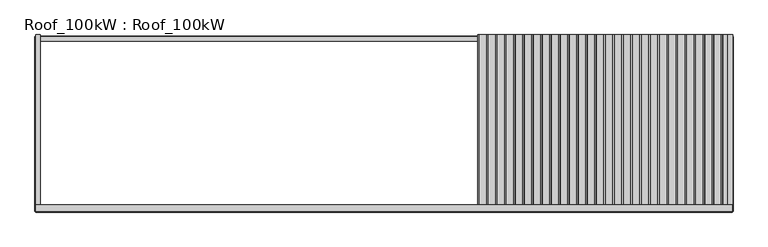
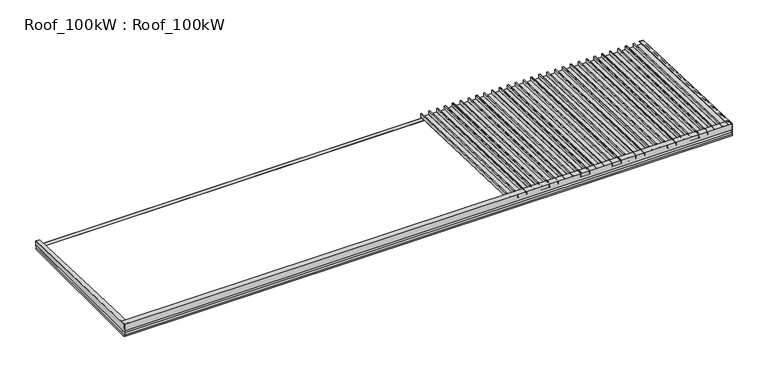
"""IFC4 building model written with IfcOpenShell, lengths in millimetres: beam geometry, Roof_100kW : Roof_100kW."""

from ifc_helpers import new_model, si_unit, frame, origin, place, context, project, spatial, polyline, outline, extrude, faceted_brep, source, transform, mapped, element, save


def roof_100kw_roof_100kw_a95ad8ea(model_context):
    return source(origin(), model_context, "Body", "SolidModel", [
        extrude(outline(polyline([(3464.5525967, 3397.5851728), (3464.5525967, 3395.3087926), (-14.9618868, 3516.8161158), (-14.9618868, 3517.79167), (3464.5525967, 3397.5851728)])), frame((-6859.75, 0.0, 0.0), z_axis=(1.0, 0.0, 0.0), x_axis=(0.0, 1.0, 0.0)), (0.0, 0.0, 1.0), 91.0),
        extrude(outline(polyline([(3464.5525967, 3397.5851728), (3464.5525967, 3395.3087926), (-14.9618868, 3516.8161158), (-14.9618868, 3517.79167), (3464.5525967, 3397.5851728)])), frame((6768.75, 0.0, 0.0), z_axis=(1.0, 0.0, 0.0), x_axis=(0.0, 1.0, 0.0)), (0.0, 0.0, 1.0), 91.0),
        extrude(outline(polyline([(3460.6079515, 3284.625316), (-23.1337581, 3282.8043375), (-14.9278607, 3517.7904945), (3464.5525967, 3397.5851728), (3460.6079515, 3284.625316)])), frame((-6859.75, 0.0, 0.0), z_axis=(1.0, 0.0, 0.0), x_axis=(0.0, 1.0, 0.0)), (0.0, 0.0, 1.0), 2.0),
        extrude(outline(polyline([(3460.6079515, 3284.625316), (-23.1337581, 3282.8043375), (-14.9278607, 3517.7904945), (3464.5525967, 3397.5851728), (3460.6079515, 3284.625316)])), frame((6857.75, 0.0, 0.0), z_axis=(1.0, 0.0, 0.0), x_axis=(0.0, 1.0, 0.0)), (0.0, 0.0, 1.0), 2.0),
        extrude(outline(polyline([(3236.0000001, -6871.0855383), (3260.999998, -6859.4255305), (3310.9999984, -6859.4255305), (3310.9999984, -6857.1867954), (3313.30614, -6857.1867954), (3313.30614, -6861.7975332), (3261.5259561, -6861.7975332), (3237.0026131, -6873.2352254), (3236.0000001, -6871.0855383)])), frame((0.0, -19.1564164, 0.0), z_axis=(0.0, 1.0, 0.0), x_axis=(0.0, 0.0, 1.0)), (0.0, 0.0, 1.0), 3445.9972708),
        extrude(outline(polyline([(3236.0000001, 6868.1128673), (3237.0026131, 6870.2625544), (3261.5259561, 6858.8248623), (3313.30614, 6858.8248623), (3313.30614, 6854.2141244), (3310.9999984, 6854.2141244), (3310.9999984, 6856.4528595), (3260.999998, 6856.4528595), (3236.0000001, 6868.1128673)])), frame((0.0, -19.1564164, 0.0), z_axis=(0.0, 1.0, 0.0), x_axis=(0.0, 0.0, 1.0)), (0.0, 0.0, 1.0), 3445.9972708),
        extrude(outline(polyline([(-30.8164138, 3236.0), (-32.9660786, 3237.0026014), (-21.5284138, 3261.525951), (-21.5284138, 3313.3621913), (69.2875985, 3313.3621913), (69.2875985, 3310.9999984), (-19.1564087, 3310.9999984), (-19.1564138, 3261.0), (-30.8164138, 3236.0)])), frame((-6856.0, 0.0, 0.0), z_axis=(1.0, 0.0, 0.0), x_axis=(0.0, 1.0, 0.0)), (0.0, 0.0, 1.0), 13712.0),
        extrude(outline(polyline([(3438.5008598, 3236.0), (3426.8408598, 3261.0), (3426.8408547, 3310.9999984), (3338.3968475, 3310.9999984), (3338.3968475, 3313.3621913), (3429.2128598, 3313.3621913), (3429.2128598, 3261.525951), (3440.6505246, 3237.0026014), (3438.5008598, 3236.0)])), frame((-6856.0, 0.0, 0.0), z_axis=(1.0, 0.0, 0.0), x_axis=(0.0, 1.0, 0.0)), (0.0, 0.0, 1.0), 13712.0),
        extrude(outline(polyline([(-17.2488615, 3366.1429929), (-17.2488615, 3519.2429929), (109.0741391, 3514.8316965), (109.0741391, 3513.5542884), (-15.8497143, 3517.9167255), (-15.8497143, 3366.1429929), (-17.2488615, 3366.1429929)])), frame((-6856.0, 0.0, 0.0), z_axis=(1.0, 0.0, 0.0), x_axis=(0.0, 1.0, 0.0)), (0.0, 0.0, 1.0), 13712.0),
        faceted_brep([(6838.4239883, -12.227048, 3512.7230441), (6838.4239883, -12.227048, 3436.7693421), (6637.1239883, -12.227048, 3436.7693421), (6637.1239883, -12.227048, 3514.7218308), (6658.1239965, -12.227048, 3514.7218308), (6658.1239965, -12.227048, 3516.7206085), (6635.1239832, -12.227048, 3516.7206085), (6635.1239832, -12.227048, 3434.7705604), (6840.4239883, -12.227048, 3434.7705604), (6840.4239883, -12.227048, 3514.7218308), (6815.8239887, -12.227048, 3514.7218308), (6815.8239887, -12.227048, 3497.7321843), (6817.8239892, -12.227048, 3497.7321843), (6817.8239892, -12.227048, 3512.7230441), (6838.4239883, 3464.453761, 3391.3146758), (6817.8239892, 3464.453761, 3391.3146758), (6817.8239892, 3464.453761, 3376.3238198), (6815.8239887, 3464.453761, 3376.3238198), (6815.8239887, 3464.453761, 3393.3134574), (6840.4239935, 3464.453761, 3393.3134574), (6840.4239935, 3464.453761, 3313.3621913), (6635.1239883, 3464.453761, 3313.3621913), (6635.1239883, 3464.453761, 3395.312244), (6658.1239883, 3464.453761, 3395.312244), (6658.1239883, 3464.453761, 3393.3134574), (6637.1239883, 3464.453761, 3393.3134574), (6637.1239883, 3464.453761, 3315.3609776), (6838.4239883, 3464.453761, 3315.3609776)], [[[0, 1, 2, 3, 4, 5, 6, 7, 8, 9, 10, 11, 12, 13]], [[14, 15, 16, 17, 18, 19, 20, 21, 22, 23, 24, 25, 26, 27]], [[14, 27, 1, 0]], [[27, 26, 2, 1]], [[26, 25, 3, 2]], [[25, 24, 4, 3]], [[24, 23, 5, 4]], [[23, 22, 6, 5]], [[22, 21, 7, 6]], [[21, 20, 8, 7]], [[20, 19, 9, 8]], [[19, 18, 10, 9]], [[18, 17, 11, 10]], [[17, 16, 12, 11]], [[16, 15, 13, 12]], [[15, 14, 0, 13]]]),
        faceted_brep([(6660.8072253, -12.227048, 3512.7230441), (6660.8072253, -12.227048, 3436.7693421), (6459.5072253, -12.227048, 3436.7693421), (6459.5072253, -12.227048, 3514.7218308), (6480.5072335, -12.227048, 3514.7218308), (6480.5072335, -12.227048, 3516.7206085), (6457.5072202, -12.227048, 3516.7206085), (6457.5072202, -12.227048, 3434.7705604), (6662.8072253, -12.227048, 3434.7705604), (6662.8072253, -12.227048, 3514.7218308), (6638.2072257, -12.227048, 3514.7218308), (6638.2072257, -12.227048, 3497.7321843), (6640.2072262, -12.227048, 3497.7321843), (6640.2072262, -12.227048, 3512.7230441), (6660.8072253, 3464.453761, 3391.3146758), (6640.2072262, 3464.453761, 3391.3146758), (6640.2072262, 3464.453761, 3376.3238198), (6638.2072257, 3464.453761, 3376.3238198), (6638.2072257, 3464.453761, 3393.3134574), (6662.8072305, 3464.453761, 3393.3134574), (6662.8072305, 3464.453761, 3313.3621913), (6457.5072253, 3464.453761, 3313.3621913), (6457.5072253, 3464.453761, 3395.312244), (6480.5072253, 3464.453761, 3395.312244), (6480.5072253, 3464.453761, 3393.3134574), (6459.5072253, 3464.453761, 3393.3134574), (6459.5072253, 3464.453761, 3315.3609776), (6660.8072253, 3464.453761, 3315.3609776)], [[[0, 1, 2, 3, 4, 5, 6, 7, 8, 9, 10, 11, 12, 13]], [[14, 15, 16, 17, 18, 19, 20, 21, 22, 23, 24, 25, 26, 27]], [[14, 27, 1, 0]], [[27, 26, 2, 1]], [[26, 25, 3, 2]], [[25, 24, 4, 3]], [[24, 23, 5, 4]], [[23, 22, 6, 5]], [[22, 21, 7, 6]], [[21, 20, 8, 7]], [[20, 19, 9, 8]], [[19, 18, 10, 9]], [[18, 17, 11, 10]], [[17, 16, 12, 11]], [[16, 15, 13, 12]], [[15, 14, 0, 13]]]),
        faceted_brep([(6483.1904623, -12.227048, 3512.7230441), (6483.1904623, -12.227048, 3436.7693421), (6281.8904623, -12.227048, 3436.7693421), (6281.8904623, -12.227048, 3514.7218308), (6302.8904705, -12.227048, 3514.7218308), (6302.8904705, -12.227048, 3516.7206085), (6279.8904572, -12.227048, 3516.7206085), (6279.8904572, -12.227048, 3434.7705604), (6485.1904623, -12.227048, 3434.7705604), (6485.1904623, -12.227048, 3514.7218308), (6460.5904627, -12.227048, 3514.7218308), (6460.5904627, -12.227048, 3497.7321843), (6462.5904632, -12.227048, 3497.7321843), (6462.5904632, -12.227048, 3512.7230441), (6483.1904623, 3464.453761, 3391.3146758), (6462.5904632, 3464.453761, 3391.3146758), (6462.5904632, 3464.453761, 3376.3238198), (6460.5904627, 3464.453761, 3376.3238198), (6460.5904627, 3464.453761, 3393.3134574), (6485.1904675, 3464.453761, 3393.3134574), (6485.1904675, 3464.453761, 3313.3621913), (6279.8904623, 3464.453761, 3313.3621913), (6279.8904623, 3464.453761, 3395.312244), (6302.8904623, 3464.453761, 3395.312244), (6302.8904623, 3464.453761, 3393.3134574), (6281.8904623, 3464.453761, 3393.3134574), (6281.8904623, 3464.453761, 3315.3609776), (6483.1904623, 3464.453761, 3315.3609776)], [[[0, 1, 2, 3, 4, 5, 6, 7, 8, 9, 10, 11, 12, 13]], [[14, 15, 16, 17, 18, 19, 20, 21, 22, 23, 24, 25, 26, 27]], [[14, 27, 1, 0]], [[27, 26, 2, 1]], [[26, 25, 3, 2]], [[25, 24, 4, 3]], [[24, 23, 5, 4]], [[23, 22, 6, 5]], [[22, 21, 7, 6]], [[21, 20, 8, 7]], [[20, 19, 9, 8]], [[19, 18, 10, 9]], [[18, 17, 11, 10]], [[17, 16, 12, 11]], [[16, 15, 13, 12]], [[15, 14, 0, 13]]]),
        faceted_brep([(6305.5736993, -12.227048, 3512.7230441), (6305.5736993, -12.227048, 3436.7693421), (6104.2736993, -12.227048, 3436.7693421), (6104.2736993, -12.227048, 3514.7218308), (6125.2737075, -12.227048, 3514.7218308), (6125.2737075, -12.227048, 3516.7206085), (6102.2736942, -12.227048, 3516.7206085), (6102.2736942, -12.227048, 3434.7705604), (6307.5736993, -12.227048, 3434.7705604), (6307.5736993, -12.227048, 3514.7218308), (6282.9736997, -12.227048, 3514.7218308), (6282.9736997, -12.227048, 3497.7321843), (6284.9737002, -12.227048, 3497.7321843), (6284.9737002, -12.227048, 3512.7230441), (6305.5736993, 3464.453761, 3391.3146758), (6284.9737002, 3464.453761, 3391.3146758), (6284.9737002, 3464.453761, 3376.3238198), (6282.9736997, 3464.453761, 3376.3238198), (6282.9736997, 3464.453761, 3393.3134574), (6307.5737045, 3464.453761, 3393.3134574), (6307.5737045, 3464.453761, 3313.3621913), (6102.2736993, 3464.453761, 3313.3621913), (6102.2736993, 3464.453761, 3395.312244), (6125.2736993, 3464.453761, 3395.312244), (6125.2736993, 3464.453761, 3393.3134574), (6104.2736993, 3464.453761, 3393.3134574), (6104.2736993, 3464.453761, 3315.3609776), (6305.5736993, 3464.453761, 3315.3609776)], [[[0, 1, 2, 3, 4, 5, 6, 7, 8, 9, 10, 11, 12, 13]], [[14, 15, 16, 17, 18, 19, 20, 21, 22, 23, 24, 25, 26, 27]], [[14, 27, 1, 0]], [[27, 26, 2, 1]], [[26, 25, 3, 2]], [[25, 24, 4, 3]], [[24, 23, 5, 4]], [[23, 22, 6, 5]], [[22, 21, 7, 6]], [[21, 20, 8, 7]], [[20, 19, 9, 8]], [[19, 18, 10, 9]], [[18, 17, 11, 10]], [[17, 16, 12, 11]], [[16, 15, 13, 12]], [[15, 14, 0, 13]]]),
        faceted_brep([(6127.9569363, -12.227048, 3512.7230441), (6127.9569363, -12.227048, 3436.7693421), (5926.6569363, -12.227048, 3436.7693421), (5926.6569363, -12.227048, 3514.7218308), (5947.6569445, -12.227048, 3514.7218308), (5947.6569445, -12.227048, 3516.7206085), (5924.6569312, -12.227048, 3516.7206085), (5924.6569312, -12.227048, 3434.7705604), (6129.9569363, -12.227048, 3434.7705604), (6129.9569363, -12.227048, 3514.7218308), (6105.3569367, -12.227048, 3514.7218308), (6105.3569367, -12.227048, 3497.7321843), (6107.3569372, -12.227048, 3497.7321843), (6107.3569372, -12.227048, 3512.7230441), (6127.9569363, 3464.453761, 3391.3146758), (6107.3569372, 3464.453761, 3391.3146758), (6107.3569372, 3464.453761, 3376.3238198), (6105.3569367, 3464.453761, 3376.3238198), (6105.3569367, 3464.453761, 3393.3134574), (6129.9569415, 3464.453761, 3393.3134574), (6129.9569415, 3464.453761, 3313.3621913), (5924.6569363, 3464.453761, 3313.3621913), (5924.6569363, 3464.453761, 3395.312244), (5947.6569363, 3464.453761, 3395.312244), (5947.6569363, 3464.453761, 3393.3134574), (5926.6569363, 3464.453761, 3393.3134574), (5926.6569363, 3464.453761, 3315.3609776), (6127.9569363, 3464.453761, 3315.3609776)], [[[0, 1, 2, 3, 4, 5, 6, 7, 8, 9, 10, 11, 12, 13]], [[14, 15, 16, 17, 18, 19, 20, 21, 22, 23, 24, 25, 26, 27]], [[14, 27, 1, 0]], [[27, 26, 2, 1]], [[26, 25, 3, 2]], [[25, 24, 4, 3]], [[24, 23, 5, 4]], [[23, 22, 6, 5]], [[22, 21, 7, 6]], [[21, 20, 8, 7]], [[20, 19, 9, 8]], [[19, 18, 10, 9]], [[18, 17, 11, 10]], [[17, 16, 12, 11]], [[16, 15, 13, 12]], [[15, 14, 0, 13]]]),
        faceted_brep([(5950.3401733, -12.227048, 3512.7230441), (5950.3401733, -12.227048, 3436.7693421), (5749.0401733, -12.227048, 3436.7693421), (5749.0401733, -12.227048, 3514.7218308), (5770.0401815, -12.227048, 3514.7218308), (5770.0401815, -12.227048, 3516.7206085), (5747.0401682, -12.227048, 3516.7206085), (5747.0401682, -12.227048, 3434.7705604), (5952.3401733, -12.227048, 3434.7705604), (5952.3401733, -12.227048, 3514.7218308), (5927.7401736, -12.227048, 3514.7218308), (5927.7401736, -12.227048, 3497.7321843), (5929.7401742, -12.227048, 3497.7321843), (5929.7401742, -12.227048, 3512.7230441), (5950.3401733, 3464.453761, 3391.3146758), (5929.7401742, 3464.453761, 3391.3146758), (5929.7401742, 3464.453761, 3376.3238198), (5927.7401736, 3464.453761, 3376.3238198), (5927.7401736, 3464.453761, 3393.3134574), (5952.3401785, 3464.453761, 3393.3134574), (5952.3401785, 3464.453761, 3313.3621913), (5747.0401733, 3464.453761, 3313.3621913), (5747.0401733, 3464.453761, 3395.312244), (5770.0401733, 3464.453761, 3395.312244), (5770.0401733, 3464.453761, 3393.3134574), (5749.0401733, 3464.453761, 3393.3134574), (5749.0401733, 3464.453761, 3315.3609776), (5950.3401733, 3464.453761, 3315.3609776)], [[[0, 1, 2, 3, 4, 5, 6, 7, 8, 9, 10, 11, 12, 13]], [[14, 15, 16, 17, 18, 19, 20, 21, 22, 23, 24, 25, 26, 27]], [[14, 27, 1, 0]], [[27, 26, 2, 1]], [[26, 25, 3, 2]], [[25, 24, 4, 3]], [[24, 23, 5, 4]], [[23, 22, 6, 5]], [[22, 21, 7, 6]], [[21, 20, 8, 7]], [[20, 19, 9, 8]], [[19, 18, 10, 9]], [[18, 17, 11, 10]], [[17, 16, 12, 11]], [[16, 15, 13, 12]], [[15, 14, 0, 13]]]),
        faceted_brep([(5772.7234103, -12.227048, 3512.7230441), (5772.7234103, -12.227048, 3436.7693421), (5571.4234103, -12.227048, 3436.7693421), (5571.4234103, -12.227048, 3514.7218308), (5592.4234185, -12.227048, 3514.7218308), (5592.4234185, -12.227048, 3516.7206085), (5569.4234052, -12.227048, 3516.7206085), (5569.4234052, -12.227048, 3434.7705604), (5774.7234103, -12.227048, 3434.7705604), (5774.7234103, -12.227048, 3514.7218308), (5750.1234106, -12.227048, 3514.7218308), (5750.1234106, -12.227048, 3497.7321843), (5752.1234112, -12.227048, 3497.7321843), (5752.1234112, -12.227048, 3512.7230441), (5772.7234103, 3464.453761, 3391.3146758), (5752.1234112, 3464.453761, 3391.3146758), (5752.1234112, 3464.453761, 3376.3238198), (5750.1234106, 3464.453761, 3376.3238198), (5750.1234106, 3464.453761, 3393.3134574), (5774.7234155, 3464.453761, 3393.3134574), (5774.7234155, 3464.453761, 3313.3621913), (5569.4234103, 3464.453761, 3313.3621913), (5569.4234103, 3464.453761, 3395.312244), (5592.4234103, 3464.453761, 3395.312244), (5592.4234103, 3464.453761, 3393.3134574), (5571.4234103, 3464.453761, 3393.3134574), (5571.4234103, 3464.453761, 3315.3609776), (5772.7234103, 3464.453761, 3315.3609776)], [[[0, 1, 2, 3, 4, 5, 6, 7, 8, 9, 10, 11, 12, 13]], [[14, 15, 16, 17, 18, 19, 20, 21, 22, 23, 24, 25, 26, 27]], [[14, 27, 1, 0]], [[27, 26, 2, 1]], [[26, 25, 3, 2]], [[25, 24, 4, 3]], [[24, 23, 5, 4]], [[23, 22, 6, 5]], [[22, 21, 7, 6]], [[21, 20, 8, 7]], [[20, 19, 9, 8]], [[19, 18, 10, 9]], [[18, 17, 11, 10]], [[17, 16, 12, 11]], [[16, 15, 13, 12]], [[15, 14, 0, 13]]]),
        faceted_brep([(5595.1066473, -12.227048, 3512.7230441), (5595.1066473, -12.227048, 3436.7693421), (5393.8066473, -12.227048, 3436.7693421), (5393.8066473, -12.227048, 3514.7218308), (5414.8066555, -12.227048, 3514.7218308), (5414.8066555, -12.227048, 3516.7206085), (5391.8066422, -12.227048, 3516.7206085), (5391.8066422, -12.227048, 3434.7705604), (5597.1066473, -12.227048, 3434.7705604), (5597.1066473, -12.227048, 3514.7218308), (5572.5066476, -12.227048, 3514.7218308), (5572.5066476, -12.227048, 3497.7321843), (5574.5066482, -12.227048, 3497.7321843), (5574.5066482, -12.227048, 3512.7230441), (5595.1066473, 3464.453761, 3391.3146758), (5574.5066482, 3464.453761, 3391.3146758), (5574.5066482, 3464.453761, 3376.3238198), (5572.5066476, 3464.453761, 3376.3238198), (5572.5066476, 3464.453761, 3393.3134574), (5597.1066525, 3464.453761, 3393.3134574), (5597.1066525, 3464.453761, 3313.3621913), (5391.8066473, 3464.453761, 3313.3621913), (5391.8066473, 3464.453761, 3395.312244), (5414.8066473, 3464.453761, 3395.312244), (5414.8066473, 3464.453761, 3393.3134574), (5393.8066473, 3464.453761, 3393.3134574), (5393.8066473, 3464.453761, 3315.3609776), (5595.1066473, 3464.453761, 3315.3609776)], [[[0, 1, 2, 3, 4, 5, 6, 7, 8, 9, 10, 11, 12, 13]], [[14, 15, 16, 17, 18, 19, 20, 21, 22, 23, 24, 25, 26, 27]], [[14, 27, 1, 0]], [[27, 26, 2, 1]], [[26, 25, 3, 2]], [[25, 24, 4, 3]], [[24, 23, 5, 4]], [[23, 22, 6, 5]], [[22, 21, 7, 6]], [[21, 20, 8, 7]], [[20, 19, 9, 8]], [[19, 18, 10, 9]], [[18, 17, 11, 10]], [[17, 16, 12, 11]], [[16, 15, 13, 12]], [[15, 14, 0, 13]]]),
        faceted_brep([(5417.4898843, -12.227048, 3512.7230441), (5417.4898843, -12.227048, 3436.7693421), (5216.1898843, -12.227048, 3436.7693421), (5216.1898843, -12.227048, 3514.7218308), (5237.1898925, -12.227048, 3514.7218308), (5237.1898925, -12.227048, 3516.7206085), (5214.1898792, -12.227048, 3516.7206085), (5214.1898792, -12.227048, 3434.7705604), (5419.4898843, -12.227048, 3434.7705604), (5419.4898843, -12.227048, 3514.7218308), (5394.8898846, -12.227048, 3514.7218308), (5394.8898846, -12.227048, 3497.7321843), (5396.8898852, -12.227048, 3497.7321843), (5396.8898852, -12.227048, 3512.7230441), (5417.4898843, 3464.453761, 3391.3146758), (5396.8898852, 3464.453761, 3391.3146758), (5396.8898852, 3464.453761, 3376.3238198), (5394.8898846, 3464.453761, 3376.3238198), (5394.8898846, 3464.453761, 3393.3134574), (5419.4898895, 3464.453761, 3393.3134574), (5419.4898895, 3464.453761, 3313.3621913), (5214.1898843, 3464.453761, 3313.3621913), (5214.1898843, 3464.453761, 3395.312244), (5237.1898843, 3464.453761, 3395.312244), (5237.1898843, 3464.453761, 3393.3134574), (5216.1898843, 3464.453761, 3393.3134574), (5216.1898843, 3464.453761, 3315.3609776), (5417.4898843, 3464.453761, 3315.3609776)], [[[0, 1, 2, 3, 4, 5, 6, 7, 8, 9, 10, 11, 12, 13]], [[14, 15, 16, 17, 18, 19, 20, 21, 22, 23, 24, 25, 26, 27]], [[14, 27, 1, 0]], [[27, 26, 2, 1]], [[26, 25, 3, 2]], [[25, 24, 4, 3]], [[24, 23, 5, 4]], [[23, 22, 6, 5]], [[22, 21, 7, 6]], [[21, 20, 8, 7]], [[20, 19, 9, 8]], [[19, 18, 10, 9]], [[18, 17, 11, 10]], [[17, 16, 12, 11]], [[16, 15, 13, 12]], [[15, 14, 0, 13]]]),
        faceted_brep([(5239.8731213, -12.227048, 3512.7230441), (5239.8731213, -12.227048, 3436.7693421), (5038.5731213, -12.227048, 3436.7693421), (5038.5731213, -12.227048, 3514.7218308), (5059.5731295, -12.227048, 3514.7218308), (5059.5731295, -12.227048, 3516.7206085), (5036.5731162, -12.227048, 3516.7206085), (5036.5731162, -12.227048, 3434.7705604), (5241.8731213, -12.227048, 3434.7705604), (5241.8731213, -12.227048, 3514.7218308), (5217.2731216, -12.227048, 3514.7218308), (5217.2731216, -12.227048, 3497.7321843), (5219.2731222, -12.227048, 3497.7321843), (5219.2731222, -12.227048, 3512.7230441), (5239.8731213, 3464.453761, 3391.3146758), (5219.2731222, 3464.453761, 3391.3146758), (5219.2731222, 3464.453761, 3376.3238198), (5217.2731216, 3464.453761, 3376.3238198), (5217.2731216, 3464.453761, 3393.3134574), (5241.8731265, 3464.453761, 3393.3134574), (5241.8731265, 3464.453761, 3313.3621913), (5036.5731213, 3464.453761, 3313.3621913), (5036.5731213, 3464.453761, 3395.312244), (5059.5731213, 3464.453761, 3395.312244), (5059.5731213, 3464.453761, 3393.3134574), (5038.5731213, 3464.453761, 3393.3134574), (5038.5731213, 3464.453761, 3315.3609776), (5239.8731213, 3464.453761, 3315.3609776)], [[[0, 1, 2, 3, 4, 5, 6, 7, 8, 9, 10, 11, 12, 13]], [[14, 15, 16, 17, 18, 19, 20, 21, 22, 23, 24, 25, 26, 27]], [[14, 27, 1, 0]], [[27, 26, 2, 1]], [[26, 25, 3, 2]], [[25, 24, 4, 3]], [[24, 23, 5, 4]], [[23, 22, 6, 5]], [[22, 21, 7, 6]], [[21, 20, 8, 7]], [[20, 19, 9, 8]], [[19, 18, 10, 9]], [[18, 17, 11, 10]], [[17, 16, 12, 11]], [[16, 15, 13, 12]], [[15, 14, 0, 13]]]),
        faceted_brep([(5062.2563583, -12.227048, 3512.7230441), (5062.2563583, -12.227048, 3436.7693421), (4860.9563583, -12.227048, 3436.7693421), (4860.9563583, -12.227048, 3514.7218308), (4881.9563665, -12.227048, 3514.7218308), (4881.9563665, -12.227048, 3516.7206085), (4858.9563532, -12.227048, 3516.7206085), (4858.9563532, -12.227048, 3434.7705604), (5064.2563583, -12.227048, 3434.7705604), (5064.2563583, -12.227048, 3514.7218308), (5039.6563586, -12.227048, 3514.7218308), (5039.6563586, -12.227048, 3497.7321843), (5041.6563592, -12.227048, 3497.7321843), (5041.6563592, -12.227048, 3512.7230441), (5062.2563583, 3464.453761, 3391.3146758), (5041.6563592, 3464.453761, 3391.3146758), (5041.6563592, 3464.453761, 3376.3238198), (5039.6563586, 3464.453761, 3376.3238198), (5039.6563586, 3464.453761, 3393.3134574), (5064.2563635, 3464.453761, 3393.3134574), (5064.2563635, 3464.453761, 3313.3621913), (4858.9563583, 3464.453761, 3313.3621913), (4858.9563583, 3464.453761, 3395.312244), (4881.9563583, 3464.453761, 3395.312244), (4881.9563583, 3464.453761, 3393.3134574), (4860.9563583, 3464.453761, 3393.3134574), (4860.9563583, 3464.453761, 3315.3609776), (5062.2563583, 3464.453761, 3315.3609776)], [[[0, 1, 2, 3, 4, 5, 6, 7, 8, 9, 10, 11, 12, 13]], [[14, 15, 16, 17, 18, 19, 20, 21, 22, 23, 24, 25, 26, 27]], [[14, 27, 1, 0]], [[27, 26, 2, 1]], [[26, 25, 3, 2]], [[25, 24, 4, 3]], [[24, 23, 5, 4]], [[23, 22, 6, 5]], [[22, 21, 7, 6]], [[21, 20, 8, 7]], [[20, 19, 9, 8]], [[19, 18, 10, 9]], [[18, 17, 11, 10]], [[17, 16, 12, 11]], [[16, 15, 13, 12]], [[15, 14, 0, 13]]]),
        faceted_brep([(4884.6395953, -12.227048, 3512.7230441), (4884.6395953, -12.227048, 3436.7693421), (4683.3395953, -12.227048, 3436.7693421), (4683.3395953, -12.227048, 3514.7218308), (4704.3396035, -12.227048, 3514.7218308), (4704.3396035, -12.227048, 3516.7206085), (4681.3395902, -12.227048, 3516.7206085), (4681.3395902, -12.227048, 3434.7705604), (4886.6395953, -12.227048, 3434.7705604), (4886.6395953, -12.227048, 3514.7218308), (4862.0395956, -12.227048, 3514.7218308), (4862.0395956, -12.227048, 3497.7321843), (4864.0395962, -12.227048, 3497.7321843), (4864.0395962, -12.227048, 3512.7230441), (4884.6395953, 3464.453761, 3391.3146758), (4864.0395962, 3464.453761, 3391.3146758), (4864.0395962, 3464.453761, 3376.3238198), (4862.0395956, 3464.453761, 3376.3238198), (4862.0395956, 3464.453761, 3393.3134574), (4886.6396005, 3464.453761, 3393.3134574), (4886.6396005, 3464.453761, 3313.3621913), (4681.3395953, 3464.453761, 3313.3621913), (4681.3395953, 3464.453761, 3395.312244), (4704.3395953, 3464.453761, 3395.312244), (4704.3395953, 3464.453761, 3393.3134574), (4683.3395953, 3464.453761, 3393.3134574), (4683.3395953, 3464.453761, 3315.3609776), (4884.6395953, 3464.453761, 3315.3609776)], [[[0, 1, 2, 3, 4, 5, 6, 7, 8, 9, 10, 11, 12, 13]], [[14, 15, 16, 17, 18, 19, 20, 21, 22, 23, 24, 25, 26, 27]], [[14, 27, 1, 0]], [[27, 26, 2, 1]], [[26, 25, 3, 2]], [[25, 24, 4, 3]], [[24, 23, 5, 4]], [[23, 22, 6, 5]], [[22, 21, 7, 6]], [[21, 20, 8, 7]], [[20, 19, 9, 8]], [[19, 18, 10, 9]], [[18, 17, 11, 10]], [[17, 16, 12, 11]], [[16, 15, 13, 12]], [[15, 14, 0, 13]]]),
        faceted_brep([(4707.0228323, -12.227048, 3512.7230441), (4707.0228323, -12.227048, 3436.7693421), (4505.7228323, -12.227048, 3436.7693421), (4505.7228323, -12.227048, 3514.7218308), (4526.7228404, -12.227048, 3514.7218308), (4526.7228404, -12.227048, 3516.7206085), (4503.7228272, -12.227048, 3516.7206085), (4503.7228272, -12.227048, 3434.7705604), (4709.0228322, -12.227048, 3434.7705604), (4709.0228322, -12.227048, 3514.7218308), (4684.4228326, -12.227048, 3514.7218308), (4684.4228326, -12.227048, 3497.7321843), (4686.4228332, -12.227048, 3497.7321843), (4686.4228332, -12.227048, 3512.7230441), (4707.0228322, 3464.453761, 3391.3146758), (4686.4228332, 3464.453761, 3391.3146758), (4686.4228332, 3464.453761, 3376.3238198), (4684.4228326, 3464.453761, 3376.3238198), (4684.4228326, 3464.453761, 3393.3134574), (4709.0228375, 3464.453761, 3393.3134574), (4709.0228375, 3464.453761, 3313.3621913), (4503.7228322, 3464.453761, 3313.3621913), (4503.7228322, 3464.453761, 3395.312244), (4526.7228322, 3464.453761, 3395.312244), (4526.7228322, 3464.453761, 3393.3134574), (4505.7228322, 3464.453761, 3393.3134574), (4505.7228322, 3464.453761, 3315.3609776), (4707.0228322, 3464.453761, 3315.3609776)], [[[0, 1, 2, 3, 4, 5, 6, 7, 8, 9, 10, 11, 12, 13]], [[14, 15, 16, 17, 18, 19, 20, 21, 22, 23, 24, 25, 26, 27]], [[14, 27, 1, 0]], [[27, 26, 2, 1]], [[26, 25, 3, 2]], [[25, 24, 4, 3]], [[24, 23, 5, 4]], [[23, 22, 6, 5]], [[22, 21, 7, 6]], [[21, 20, 8, 7]], [[20, 19, 9, 8]], [[19, 18, 10, 9]], [[18, 17, 11, 10]], [[17, 16, 12, 11]], [[16, 15, 13, 12]], [[15, 14, 0, 13]]]),
        faceted_brep([(4529.4060692, -12.227048, 3512.7230441), (4529.4060692, -12.227048, 3436.7693421), (4328.1060693, -12.227048, 3436.7693421), (4328.1060693, -12.227048, 3514.7218308), (4349.1060774, -12.227048, 3514.7218308), (4349.1060774, -12.227048, 3516.7206085), (4326.1060642, -12.227048, 3516.7206085), (4326.1060642, -12.227048, 3434.7705604), (4531.4060692, -12.227048, 3434.7705604), (4531.4060692, -12.227048, 3514.7218308), (4506.8060696, -12.227048, 3514.7218308), (4506.8060696, -12.227048, 3497.7321843), (4508.8060702, -12.227048, 3497.7321843), (4508.8060702, -12.227048, 3512.7230441), (4529.4060692, 3464.453761, 3391.3146758), (4508.8060702, 3464.453761, 3391.3146758), (4508.8060702, 3464.453761, 3376.3238198), (4506.8060696, 3464.453761, 3376.3238198), (4506.8060696, 3464.453761, 3393.3134574), (4531.4060745, 3464.453761, 3393.3134574), (4531.4060745, 3464.453761, 3313.3621913), (4326.1060692, 3464.453761, 3313.3621913), (4326.1060692, 3464.453761, 3395.312244), (4349.1060692, 3464.453761, 3395.312244), (4349.1060692, 3464.453761, 3393.3134574), (4328.1060692, 3464.453761, 3393.3134574), (4328.1060692, 3464.453761, 3315.3609776), (4529.4060692, 3464.453761, 3315.3609776)], [[[0, 1, 2, 3, 4, 5, 6, 7, 8, 9, 10, 11, 12, 13]], [[14, 15, 16, 17, 18, 19, 20, 21, 22, 23, 24, 25, 26, 27]], [[14, 27, 1, 0]], [[27, 26, 2, 1]], [[26, 25, 3, 2]], [[25, 24, 4, 3]], [[24, 23, 5, 4]], [[23, 22, 6, 5]], [[22, 21, 7, 6]], [[21, 20, 8, 7]], [[20, 19, 9, 8]], [[19, 18, 10, 9]], [[18, 17, 11, 10]], [[17, 16, 12, 11]], [[16, 15, 13, 12]], [[15, 14, 0, 13]]]),
        faceted_brep([(4351.7893062, -12.227048, 3512.7230441), (4351.7893062, -12.227048, 3436.7693421), (4150.4893063, -12.227048, 3436.7693421), (4150.4893063, -12.227048, 3514.7218308), (4171.4893144, -12.227048, 3514.7218308), (4171.4893144, -12.227048, 3516.7206085), (4148.4893012, -12.227048, 3516.7206085), (4148.4893012, -12.227048, 3434.7705604), (4353.7893062, -12.227048, 3434.7705604), (4353.7893062, -12.227048, 3514.7218308), (4329.1893066, -12.227048, 3514.7218308), (4329.1893066, -12.227048, 3497.7321843), (4331.1893072, -12.227048, 3497.7321843), (4331.1893072, -12.227048, 3512.7230441), (4351.7893062, 3464.453761, 3391.3146758), (4331.1893072, 3464.453761, 3391.3146758), (4331.1893072, 3464.453761, 3376.3238198), (4329.1893066, 3464.453761, 3376.3238198), (4329.1893066, 3464.453761, 3393.3134574), (4353.7893115, 3464.453761, 3393.3134574), (4353.7893115, 3464.453761, 3313.3621913), (4148.4893062, 3464.453761, 3313.3621913), (4148.4893062, 3464.453761, 3395.312244), (4171.4893062, 3464.453761, 3395.312244), (4171.4893062, 3464.453761, 3393.3134574), (4150.4893062, 3464.453761, 3393.3134574), (4150.4893062, 3464.453761, 3315.3609776), (4351.7893062, 3464.453761, 3315.3609776)], [[[0, 1, 2, 3, 4, 5, 6, 7, 8, 9, 10, 11, 12, 13]], [[14, 15, 16, 17, 18, 19, 20, 21, 22, 23, 24, 25, 26, 27]], [[14, 27, 1, 0]], [[27, 26, 2, 1]], [[26, 25, 3, 2]], [[25, 24, 4, 3]], [[24, 23, 5, 4]], [[23, 22, 6, 5]], [[22, 21, 7, 6]], [[21, 20, 8, 7]], [[20, 19, 9, 8]], [[19, 18, 10, 9]], [[18, 17, 11, 10]], [[17, 16, 12, 11]], [[16, 15, 13, 12]], [[15, 14, 0, 13]]]),
        faceted_brep([(4174.1725432, -12.227048, 3512.7230441), (4174.1725432, -12.227048, 3436.7693421), (3972.8725433, -12.227048, 3436.7693421), (3972.8725433, -12.227048, 3514.7218308), (3993.8725514, -12.227048, 3514.7218308), (3993.8725514, -12.227048, 3516.7206085), (3970.8725382, -12.227048, 3516.7206085), (3970.8725382, -12.227048, 3434.7705604), (4176.1725432, -12.227048, 3434.7705604), (4176.1725432, -12.227048, 3514.7218308), (4151.5725436, -12.227048, 3514.7218308), (4151.5725436, -12.227048, 3497.7321843), (4153.5725442, -12.227048, 3497.7321843), (4153.5725442, -12.227048, 3512.7230441), (4174.1725432, 3464.453761, 3391.3146758), (4153.5725442, 3464.453761, 3391.3146758), (4153.5725442, 3464.453761, 3376.3238198), (4151.5725436, 3464.453761, 3376.3238198), (4151.5725436, 3464.453761, 3393.3134574), (4176.1725485, 3464.453761, 3393.3134574), (4176.1725485, 3464.453761, 3313.3621913), (3970.8725432, 3464.453761, 3313.3621913), (3970.8725432, 3464.453761, 3395.312244), (3993.8725432, 3464.453761, 3395.312244), (3993.8725432, 3464.453761, 3393.3134574), (3972.8725432, 3464.453761, 3393.3134574), (3972.8725432, 3464.453761, 3315.3609776), (4174.1725432, 3464.453761, 3315.3609776)], [[[0, 1, 2, 3, 4, 5, 6, 7, 8, 9, 10, 11, 12, 13]], [[14, 15, 16, 17, 18, 19, 20, 21, 22, 23, 24, 25, 26, 27]], [[14, 27, 1, 0]], [[27, 26, 2, 1]], [[26, 25, 3, 2]], [[25, 24, 4, 3]], [[24, 23, 5, 4]], [[23, 22, 6, 5]], [[22, 21, 7, 6]], [[21, 20, 8, 7]], [[20, 19, 9, 8]], [[19, 18, 10, 9]], [[18, 17, 11, 10]], [[17, 16, 12, 11]], [[16, 15, 13, 12]], [[15, 14, 0, 13]]]),
        faceted_brep([(3996.5557802, -12.227048, 3512.7230441), (3996.5557802, -12.227048, 3436.7693421), (3795.2557803, -12.227048, 3436.7693421), (3795.2557803, -12.227048, 3514.7218308), (3816.2557884, -12.227048, 3514.7218308), (3816.2557884, -12.227048, 3516.7206085), (3793.2557752, -12.227048, 3516.7206085), (3793.2557752, -12.227048, 3434.7705604), (3998.5557802, -12.227048, 3434.7705604), (3998.5557802, -12.227048, 3514.7218308), (3973.9557806, -12.227048, 3514.7218308), (3973.9557806, -12.227048, 3497.7321843), (3975.9557812, -12.227048, 3497.7321843), (3975.9557812, -12.227048, 3512.7230441), (3996.5557802, 3464.453761, 3391.3146758), (3975.9557812, 3464.453761, 3391.3146758), (3975.9557812, 3464.453761, 3376.3238198), (3973.9557806, 3464.453761, 3376.3238198), (3973.9557806, 3464.453761, 3393.3134574), (3998.5557855, 3464.453761, 3393.3134574), (3998.5557855, 3464.453761, 3313.3621913), (3793.2557802, 3464.453761, 3313.3621913), (3793.2557802, 3464.453761, 3395.312244), (3816.2557802, 3464.453761, 3395.312244), (3816.2557802, 3464.453761, 3393.3134574), (3795.2557802, 3464.453761, 3393.3134574), (3795.2557802, 3464.453761, 3315.3609776), (3996.5557802, 3464.453761, 3315.3609776)], [[[0, 1, 2, 3, 4, 5, 6, 7, 8, 9, 10, 11, 12, 13]], [[14, 15, 16, 17, 18, 19, 20, 21, 22, 23, 24, 25, 26, 27]], [[14, 27, 1, 0]], [[27, 26, 2, 1]], [[26, 25, 3, 2]], [[25, 24, 4, 3]], [[24, 23, 5, 4]], [[23, 22, 6, 5]], [[22, 21, 7, 6]], [[21, 20, 8, 7]], [[20, 19, 9, 8]], [[19, 18, 10, 9]], [[18, 17, 11, 10]], [[17, 16, 12, 11]], [[16, 15, 13, 12]], [[15, 14, 0, 13]]]),
        faceted_brep([(3818.9390172, -12.227048, 3512.7230441), (3818.9390172, -12.227048, 3436.7693421), (3617.6390173, -12.227048, 3436.7693421), (3617.6390173, -12.227048, 3514.7218308), (3638.6390254, -12.227048, 3514.7218308), (3638.6390254, -12.227048, 3516.7206085), (3615.6390122, -12.227048, 3516.7206085), (3615.6390122, -12.227048, 3434.7705604), (3820.9390172, -12.227048, 3434.7705604), (3820.9390172, -12.227048, 3514.7218308), (3796.3390176, -12.227048, 3514.7218308), (3796.3390176, -12.227048, 3497.7321843), (3798.3390182, -12.227048, 3497.7321843), (3798.3390182, -12.227048, 3512.7230441), (3818.9390172, 3464.453761, 3391.3146758), (3798.3390182, 3464.453761, 3391.3146758), (3798.3390182, 3464.453761, 3376.3238198), (3796.3390176, 3464.453761, 3376.3238198), (3796.3390176, 3464.453761, 3393.3134574), (3820.9390225, 3464.453761, 3393.3134574), (3820.9390225, 3464.453761, 3313.3621913), (3615.6390172, 3464.453761, 3313.3621913), (3615.6390172, 3464.453761, 3395.312244), (3638.6390172, 3464.453761, 3395.312244), (3638.6390172, 3464.453761, 3393.3134574), (3617.6390172, 3464.453761, 3393.3134574), (3617.6390172, 3464.453761, 3315.3609776), (3818.9390172, 3464.453761, 3315.3609776)], [[[0, 1, 2, 3, 4, 5, 6, 7, 8, 9, 10, 11, 12, 13]], [[14, 15, 16, 17, 18, 19, 20, 21, 22, 23, 24, 25, 26, 27]], [[14, 27, 1, 0]], [[27, 26, 2, 1]], [[26, 25, 3, 2]], [[25, 24, 4, 3]], [[24, 23, 5, 4]], [[23, 22, 6, 5]], [[22, 21, 7, 6]], [[21, 20, 8, 7]], [[20, 19, 9, 8]], [[19, 18, 10, 9]], [[18, 17, 11, 10]], [[17, 16, 12, 11]], [[16, 15, 13, 12]], [[15, 14, 0, 13]]]),
        faceted_brep([(3641.3222542, -12.227048, 3512.7230441), (3641.3222542, -12.227048, 3436.7693421), (3440.0222543, -12.227048, 3436.7693421), (3440.0222543, -12.227048, 3514.7218308), (3461.0222624, -12.227048, 3514.7218308), (3461.0222624, -12.227048, 3516.7206085), (3438.0222492, -12.227048, 3516.7206085), (3438.0222492, -12.227048, 3434.7705604), (3643.3222542, -12.227048, 3434.7705604), (3643.3222542, -12.227048, 3514.7218308), (3618.7222546, -12.227048, 3514.7218308), (3618.7222546, -12.227048, 3497.7321843), (3620.7222552, -12.227048, 3497.7321843), (3620.7222552, -12.227048, 3512.7230441), (3641.3222542, 3464.453761, 3391.3146758), (3620.7222552, 3464.453761, 3391.3146758), (3620.7222552, 3464.453761, 3376.3238198), (3618.7222546, 3464.453761, 3376.3238198), (3618.7222546, 3464.453761, 3393.3134574), (3643.3222595, 3464.453761, 3393.3134574), (3643.3222595, 3464.453761, 3313.3621913), (3438.0222542, 3464.453761, 3313.3621913), (3438.0222542, 3464.453761, 3395.312244), (3461.0222542, 3464.453761, 3395.312244), (3461.0222542, 3464.453761, 3393.3134574), (3440.0222542, 3464.453761, 3393.3134574), (3440.0222542, 3464.453761, 3315.3609776), (3641.3222542, 3464.453761, 3315.3609776)], [[[0, 1, 2, 3, 4, 5, 6, 7, 8, 9, 10, 11, 12, 13]], [[14, 15, 16, 17, 18, 19, 20, 21, 22, 23, 24, 25, 26, 27]], [[14, 27, 1, 0]], [[27, 26, 2, 1]], [[26, 25, 3, 2]], [[25, 24, 4, 3]], [[24, 23, 5, 4]], [[23, 22, 6, 5]], [[22, 21, 7, 6]], [[21, 20, 8, 7]], [[20, 19, 9, 8]], [[19, 18, 10, 9]], [[18, 17, 11, 10]], [[17, 16, 12, 11]], [[16, 15, 13, 12]], [[15, 14, 0, 13]]]),
        faceted_brep([(3463.7054912, -12.227048, 3512.7230441), (3463.7054912, -12.227048, 3436.7693421), (3262.4054913, -12.227048, 3436.7693421), (3262.4054913, -12.227048, 3514.7218308), (3283.4054994, -12.227048, 3514.7218308), (3283.4054994, -12.227048, 3516.7206085), (3260.4054862, -12.227048, 3516.7206085), (3260.4054862, -12.227048, 3434.7705604), (3465.7054912, -12.227048, 3434.7705604), (3465.7054912, -12.227048, 3514.7218308), (3441.1054916, -12.227048, 3514.7218308), (3441.1054916, -12.227048, 3497.7321843), (3443.1054922, -12.227048, 3497.7321843), (3443.1054922, -12.227048, 3512.7230441), (3463.7054912, 3464.453761, 3391.3146758), (3443.1054922, 3464.453761, 3391.3146758), (3443.1054922, 3464.453761, 3376.3238198), (3441.1054916, 3464.453761, 3376.3238198), (3441.1054916, 3464.453761, 3393.3134574), (3465.7054965, 3464.453761, 3393.3134574), (3465.7054965, 3464.453761, 3313.3621913), (3260.4054912, 3464.453761, 3313.3621913), (3260.4054912, 3464.453761, 3395.312244), (3283.4054912, 3464.453761, 3395.312244), (3283.4054912, 3464.453761, 3393.3134574), (3262.4054912, 3464.453761, 3393.3134574), (3262.4054912, 3464.453761, 3315.3609776), (3463.7054912, 3464.453761, 3315.3609776)], [[[0, 1, 2, 3, 4, 5, 6, 7, 8, 9, 10, 11, 12, 13]], [[14, 15, 16, 17, 18, 19, 20, 21, 22, 23, 24, 25, 26, 27]], [[14, 27, 1, 0]], [[27, 26, 2, 1]], [[26, 25, 3, 2]], [[25, 24, 4, 3]], [[24, 23, 5, 4]], [[23, 22, 6, 5]], [[22, 21, 7, 6]], [[21, 20, 8, 7]], [[20, 19, 9, 8]], [[19, 18, 10, 9]], [[18, 17, 11, 10]], [[17, 16, 12, 11]], [[16, 15, 13, 12]], [[15, 14, 0, 13]]]),
        faceted_brep([(3286.0887282, -12.227048, 3512.7230441), (3286.0887282, -12.227048, 3436.7693421), (3084.7887283, -12.227048, 3436.7693421), (3084.7887283, -12.227048, 3514.7218308), (3105.7887364, -12.227048, 3514.7218308), (3105.7887364, -12.227048, 3516.7206085), (3082.7887232, -12.227048, 3516.7206085), (3082.7887232, -12.227048, 3434.7705604), (3288.0887282, -12.227048, 3434.7705604), (3288.0887282, -12.227048, 3514.7218308), (3263.4887286, -12.227048, 3514.7218308), (3263.4887286, -12.227048, 3497.7321843), (3265.4887292, -12.227048, 3497.7321843), (3265.4887292, -12.227048, 3512.7230441), (3286.0887282, 3464.453761, 3391.3146758), (3265.4887292, 3464.453761, 3391.3146758), (3265.4887292, 3464.453761, 3376.3238198), (3263.4887286, 3464.453761, 3376.3238198), (3263.4887286, 3464.453761, 3393.3134574), (3288.0887335, 3464.453761, 3393.3134574), (3288.0887335, 3464.453761, 3313.3621913), (3082.7887282, 3464.453761, 3313.3621913), (3082.7887282, 3464.453761, 3395.312244), (3105.7887282, 3464.453761, 3395.312244), (3105.7887282, 3464.453761, 3393.3134574), (3084.7887282, 3464.453761, 3393.3134574), (3084.7887282, 3464.453761, 3315.3609776), (3286.0887282, 3464.453761, 3315.3609776)], [[[0, 1, 2, 3, 4, 5, 6, 7, 8, 9, 10, 11, 12, 13]], [[14, 15, 16, 17, 18, 19, 20, 21, 22, 23, 24, 25, 26, 27]], [[14, 27, 1, 0]], [[27, 26, 2, 1]], [[26, 25, 3, 2]], [[25, 24, 4, 3]], [[24, 23, 5, 4]], [[23, 22, 6, 5]], [[22, 21, 7, 6]], [[21, 20, 8, 7]], [[20, 19, 9, 8]], [[19, 18, 10, 9]], [[18, 17, 11, 10]], [[17, 16, 12, 11]], [[16, 15, 13, 12]], [[15, 14, 0, 13]]]),
        faceted_brep([(3108.4719652, -12.227048, 3512.7230441), (3108.4719652, -12.227048, 3436.7693421), (2907.1719653, -12.227048, 3436.7693421), (2907.1719653, -12.227048, 3514.7218308), (2928.1719734, -12.227048, 3514.7218308), (2928.1719734, -12.227048, 3516.7206085), (2905.1719602, -12.227048, 3516.7206085), (2905.1719602, -12.227048, 3434.7705604), (3110.4719652, -12.227048, 3434.7705604), (3110.4719652, -12.227048, 3514.7218308), (3085.8719656, -12.227048, 3514.7218308), (3085.8719656, -12.227048, 3497.7321843), (3087.8719661, -12.227048, 3497.7321843), (3087.8719661, -12.227048, 3512.7230441), (3108.4719652, 3464.453761, 3391.3146758), (3087.8719661, 3464.453761, 3391.3146758), (3087.8719661, 3464.453761, 3376.3238198), (3085.8719656, 3464.453761, 3376.3238198), (3085.8719656, 3464.453761, 3393.3134574), (3110.4719705, 3464.453761, 3393.3134574), (3110.4719705, 3464.453761, 3313.3621913), (2905.1719652, 3464.453761, 3313.3621913), (2905.1719652, 3464.453761, 3395.312244), (2928.1719652, 3464.453761, 3395.312244), (2928.1719652, 3464.453761, 3393.3134574), (2907.1719652, 3464.453761, 3393.3134574), (2907.1719652, 3464.453761, 3315.3609776), (3108.4719652, 3464.453761, 3315.3609776)], [[[0, 1, 2, 3, 4, 5, 6, 7, 8, 9, 10, 11, 12, 13]], [[14, 15, 16, 17, 18, 19, 20, 21, 22, 23, 24, 25, 26, 27]], [[14, 27, 1, 0]], [[27, 26, 2, 1]], [[26, 25, 3, 2]], [[25, 24, 4, 3]], [[24, 23, 5, 4]], [[23, 22, 6, 5]], [[22, 21, 7, 6]], [[21, 20, 8, 7]], [[20, 19, 9, 8]], [[19, 18, 10, 9]], [[18, 17, 11, 10]], [[17, 16, 12, 11]], [[16, 15, 13, 12]], [[15, 14, 0, 13]]]),
        faceted_brep([(2930.8552022, -12.227048, 3512.7230441), (2930.8552022, -12.227048, 3436.7693421), (2729.5552023, -12.227048, 3436.7693421), (2729.5552023, -12.227048, 3514.7218308), (2750.5552104, -12.227048, 3514.7218308), (2750.5552104, -12.227048, 3516.7206085), (2727.5551972, -12.227048, 3516.7206085), (2727.5551972, -12.227048, 3434.7705604), (2932.8552022, -12.227048, 3434.7705604), (2932.8552022, -12.227048, 3514.7218308), (2908.2552026, -12.227048, 3514.7218308), (2908.2552026, -12.227048, 3497.7321843), (2910.2552031, -12.227048, 3497.7321843), (2910.2552031, -12.227048, 3512.7230441), (2930.8552022, 3464.453761, 3391.3146758), (2910.2552031, 3464.453761, 3391.3146758), (2910.2552031, 3464.453761, 3376.3238198), (2908.2552026, 3464.453761, 3376.3238198), (2908.2552026, 3464.453761, 3393.3134574), (2932.8552075, 3464.453761, 3393.3134574), (2932.8552075, 3464.453761, 3313.3621913), (2727.5552022, 3464.453761, 3313.3621913), (2727.5552022, 3464.453761, 3395.312244), (2750.5552022, 3464.453761, 3395.312244), (2750.5552022, 3464.453761, 3393.3134574), (2729.5552022, 3464.453761, 3393.3134574), (2729.5552022, 3464.453761, 3315.3609776), (2930.8552022, 3464.453761, 3315.3609776)], [[[0, 1, 2, 3, 4, 5, 6, 7, 8, 9, 10, 11, 12, 13]], [[14, 15, 16, 17, 18, 19, 20, 21, 22, 23, 24, 25, 26, 27]], [[14, 27, 1, 0]], [[27, 26, 2, 1]], [[26, 25, 3, 2]], [[25, 24, 4, 3]], [[24, 23, 5, 4]], [[23, 22, 6, 5]], [[22, 21, 7, 6]], [[21, 20, 8, 7]], [[20, 19, 9, 8]], [[19, 18, 10, 9]], [[18, 17, 11, 10]], [[17, 16, 12, 11]], [[16, 15, 13, 12]], [[15, 14, 0, 13]]]),
        faceted_brep([(2753.2384392, -12.227048, 3512.7230441), (2753.2384392, -12.227048, 3436.7693421), (2551.9384393, -12.227048, 3436.7693421), (2551.9384393, -12.227048, 3514.7218308), (2572.9384474, -12.227048, 3514.7218308), (2572.9384474, -12.227048, 3516.7206085), (2549.9384341, -12.227048, 3516.7206085), (2549.9384341, -12.227048, 3434.7705604), (2755.2384392, -12.227048, 3434.7705604), (2755.2384392, -12.227048, 3514.7218308), (2730.6384396, -12.227048, 3514.7218308), (2730.6384396, -12.227048, 3497.7321843), (2732.6384401, -12.227048, 3497.7321843), (2732.6384401, -12.227048, 3512.7230441), (2753.2384392, 3464.453761, 3391.3146758), (2732.6384401, 3464.453761, 3391.3146758), (2732.6384401, 3464.453761, 3376.3238198), (2730.6384396, 3464.453761, 3376.3238198), (2730.6384396, 3464.453761, 3393.3134574), (2755.2384444, 3464.453761, 3393.3134574), (2755.2384444, 3464.453761, 3313.3621913), (2549.9384392, 3464.453761, 3313.3621913), (2549.9384392, 3464.453761, 3395.312244), (2572.9384392, 3464.453761, 3395.312244), (2572.9384392, 3464.453761, 3393.3134574), (2551.9384392, 3464.453761, 3393.3134574), (2551.9384392, 3464.453761, 3315.3609776), (2753.2384392, 3464.453761, 3315.3609776)], [[[0, 1, 2, 3, 4, 5, 6, 7, 8, 9, 10, 11, 12, 13]], [[14, 15, 16, 17, 18, 19, 20, 21, 22, 23, 24, 25, 26, 27]], [[14, 27, 1, 0]], [[27, 26, 2, 1]], [[26, 25, 3, 2]], [[25, 24, 4, 3]], [[24, 23, 5, 4]], [[23, 22, 6, 5]], [[22, 21, 7, 6]], [[21, 20, 8, 7]], [[20, 19, 9, 8]], [[19, 18, 10, 9]], [[18, 17, 11, 10]], [[17, 16, 12, 11]], [[16, 15, 13, 12]], [[15, 14, 0, 13]]]),
        faceted_brep([(2575.6216762, -12.227048, 3512.7230441), (2575.6216762, -12.227048, 3436.7693421), (2374.3216762, -12.227048, 3436.7693421), (2374.3216762, -12.227048, 3514.7218308), (2395.3216844, -12.227048, 3514.7218308), (2395.3216844, -12.227048, 3516.7206085), (2372.3216711, -12.227048, 3516.7206085), (2372.3216711, -12.227048, 3434.7705604), (2577.6216762, -12.227048, 3434.7705604), (2577.6216762, -12.227048, 3514.7218308), (2553.0216766, -12.227048, 3514.7218308), (2553.0216766, -12.227048, 3497.7321843), (2555.0216771, -12.227048, 3497.7321843), (2555.0216771, -12.227048, 3512.7230441), (2575.6216762, 3464.453761, 3391.3146758), (2555.0216771, 3464.453761, 3391.3146758), (2555.0216771, 3464.453761, 3376.3238198), (2553.0216766, 3464.453761, 3376.3238198), (2553.0216766, 3464.453761, 3393.3134574), (2577.6216814, 3464.453761, 3393.3134574), (2577.6216814, 3464.453761, 3313.3621913), (2372.3216762, 3464.453761, 3313.3621913), (2372.3216762, 3464.453761, 3395.312244), (2395.3216762, 3464.453761, 3395.312244), (2395.3216762, 3464.453761, 3393.3134574), (2374.3216762, 3464.453761, 3393.3134574), (2374.3216762, 3464.453761, 3315.3609776), (2575.6216762, 3464.453761, 3315.3609776)], [[[0, 1, 2, 3, 4, 5, 6, 7, 8, 9, 10, 11, 12, 13]], [[14, 15, 16, 17, 18, 19, 20, 21, 22, 23, 24, 25, 26, 27]], [[14, 27, 1, 0]], [[27, 26, 2, 1]], [[26, 25, 3, 2]], [[25, 24, 4, 3]], [[24, 23, 5, 4]], [[23, 22, 6, 5]], [[22, 21, 7, 6]], [[21, 20, 8, 7]], [[20, 19, 9, 8]], [[19, 18, 10, 9]], [[18, 17, 11, 10]], [[17, 16, 12, 11]], [[16, 15, 13, 12]], [[15, 14, 0, 13]]]),
        faceted_brep([(2398.0049132, -12.227048, 3512.7230441), (2398.0049132, -12.227048, 3436.7693421), (2196.7049132, -12.227048, 3436.7693421), (2196.7049132, -12.227048, 3514.7218308), (2217.7049214, -12.227048, 3514.7218308), (2217.7049214, -12.227048, 3516.7206085), (2194.7049081, -12.227048, 3516.7206085), (2194.7049081, -12.227048, 3434.7705604), (2400.0049132, -12.227048, 3434.7705604), (2400.0049132, -12.227048, 3514.7218308), (2375.4049136, -12.227048, 3514.7218308), (2375.4049136, -12.227048, 3497.7321843), (2377.4049141, -12.227048, 3497.7321843), (2377.4049141, -12.227048, 3512.7230441), (2398.0049132, 3464.453761, 3391.3146758), (2377.4049141, 3464.453761, 3391.3146758), (2377.4049141, 3464.453761, 3376.3238198), (2375.4049136, 3464.453761, 3376.3238198), (2375.4049136, 3464.453761, 3393.3134574), (2400.0049184, 3464.453761, 3393.3134574), (2400.0049184, 3464.453761, 3313.3621913), (2194.7049132, 3464.453761, 3313.3621913), (2194.7049132, 3464.453761, 3395.312244), (2217.7049132, 3464.453761, 3395.312244), (2217.7049132, 3464.453761, 3393.3134574), (2196.7049132, 3464.453761, 3393.3134574), (2196.7049132, 3464.453761, 3315.3609776), (2398.0049132, 3464.453761, 3315.3609776)], [[[0, 1, 2, 3, 4, 5, 6, 7, 8, 9, 10, 11, 12, 13]], [[14, 15, 16, 17, 18, 19, 20, 21, 22, 23, 24, 25, 26, 27]], [[14, 27, 1, 0]], [[27, 26, 2, 1]], [[26, 25, 3, 2]], [[25, 24, 4, 3]], [[24, 23, 5, 4]], [[23, 22, 6, 5]], [[22, 21, 7, 6]], [[21, 20, 8, 7]], [[20, 19, 9, 8]], [[19, 18, 10, 9]], [[18, 17, 11, 10]], [[17, 16, 12, 11]], [[16, 15, 13, 12]], [[15, 14, 0, 13]]]),
        faceted_brep([(2220.3881502, -12.227048, 3512.7230441), (2220.3881502, -12.227048, 3436.7693421), (2019.0881502, -12.227048, 3436.7693421), (2019.0881502, -12.227048, 3514.7218308), (2040.0881584, -12.227048, 3514.7218308), (2040.0881584, -12.227048, 3516.7206085), (2017.0881451, -12.227048, 3516.7206085), (2017.0881451, -12.227048, 3434.7705604), (2222.3881502, -12.227048, 3434.7705604), (2222.3881502, -12.227048, 3514.7218308), (2197.7881506, -12.227048, 3514.7218308), (2197.7881506, -12.227048, 3497.7321843), (2199.7881511, -12.227048, 3497.7321843), (2199.7881511, -12.227048, 3512.7230441), (2220.3881502, 3464.453761, 3391.3146758), (2199.7881511, 3464.453761, 3391.3146758), (2199.7881511, 3464.453761, 3376.3238198), (2197.7881506, 3464.453761, 3376.3238198), (2197.7881506, 3464.453761, 3393.3134574), (2222.3881554, 3464.453761, 3393.3134574), (2222.3881554, 3464.453761, 3313.3621913), (2017.0881502, 3464.453761, 3313.3621913), (2017.0881502, 3464.453761, 3395.312244), (2040.0881502, 3464.453761, 3395.312244), (2040.0881502, 3464.453761, 3393.3134574), (2019.0881502, 3464.453761, 3393.3134574), (2019.0881502, 3464.453761, 3315.3609776), (2220.3881502, 3464.453761, 3315.3609776)], [[[0, 1, 2, 3, 4, 5, 6, 7, 8, 9, 10, 11, 12, 13]], [[14, 15, 16, 17, 18, 19, 20, 21, 22, 23, 24, 25, 26, 27]], [[14, 27, 1, 0]], [[27, 26, 2, 1]], [[26, 25, 3, 2]], [[25, 24, 4, 3]], [[24, 23, 5, 4]], [[23, 22, 6, 5]], [[22, 21, 7, 6]], [[21, 20, 8, 7]], [[20, 19, 9, 8]], [[19, 18, 10, 9]], [[18, 17, 11, 10]], [[17, 16, 12, 11]], [[16, 15, 13, 12]], [[15, 14, 0, 13]]]),
        faceted_brep([(2042.7713872, -12.227048, 3512.7230441), (2042.7713872, -12.227048, 3436.7693421), (1841.4713872, -12.227048, 3436.7693421), (1841.4713872, -12.227048, 3514.7218308), (1862.4713954, -12.227048, 3514.7218308), (1862.4713954, -12.227048, 3516.7206085), (1839.4713821, -12.227048, 3516.7206085), (1839.4713821, -12.227048, 3434.7705604), (2044.7713872, -12.227048, 3434.7705604), (2044.7713872, -12.227048, 3514.7218308), (2020.1713876, -12.227048, 3514.7218308), (2020.1713876, -12.227048, 3497.7321843), (2022.1713881, -12.227048, 3497.7321843), (2022.1713881, -12.227048, 3512.7230441), (2042.7713872, 3464.453761, 3391.3146758), (2022.1713881, 3464.453761, 3391.3146758), (2022.1713881, 3464.453761, 3376.3238198), (2020.1713876, 3464.453761, 3376.3238198), (2020.1713876, 3464.453761, 3393.3134574), (2044.7713924, 3464.453761, 3393.3134574), (2044.7713924, 3464.453761, 3313.3621913), (1839.4713872, 3464.453761, 3313.3621913), (1839.4713872, 3464.453761, 3395.312244), (1862.4713872, 3464.453761, 3395.312244), (1862.4713872, 3464.453761, 3393.3134574), (1841.4713872, 3464.453761, 3393.3134574), (1841.4713872, 3464.453761, 3315.3609776), (2042.7713872, 3464.453761, 3315.3609776)], [[[0, 1, 2, 3, 4, 5, 6, 7, 8, 9, 10, 11, 12, 13]], [[14, 15, 16, 17, 18, 19, 20, 21, 22, 23, 24, 25, 26, 27]], [[14, 27, 1, 0]], [[27, 26, 2, 1]], [[26, 25, 3, 2]], [[25, 24, 4, 3]], [[24, 23, 5, 4]], [[23, 22, 6, 5]], [[22, 21, 7, 6]], [[21, 20, 8, 7]], [[20, 19, 9, 8]], [[19, 18, 10, 9]], [[18, 17, 11, 10]], [[17, 16, 12, 11]], [[16, 15, 13, 12]], [[15, 14, 0, 13]]]),
    ])


if __name__ == "__main__":
    model = new_model("IFC4")
    model_context = context("Model", 3, world=origin())
    ifc_project = project(units=[si_unit("LENGTHUNIT", "METRE", prefix="MILLI")], contexts=[model_context])
    site = spatial("IfcSite", under=ifc_project)
    building = spatial("IfcBuilding", under=site)
    placement = place(None, origin())
    roof_100kw_roof_100kw_shape = roof_100kw_roof_100kw_a95ad8ea(model_context)
    element("IfcBeam", 1, ObjectType="Roof_100kW : Roof_100kW", at=placement, inside=building, context=model_context, shape_type="MappedRepresentation", body=[
        mapped(roof_100kw_roof_100kw_shape, transform((0.0, 0.0, 0.0), x_axis=(1.0, 0.0, 0.0), y_axis=(0.0, 1.0, 0.0), z_axis=(0.0, 0.0, 1.0))),
    ])
    save(model, "model.ifc")
